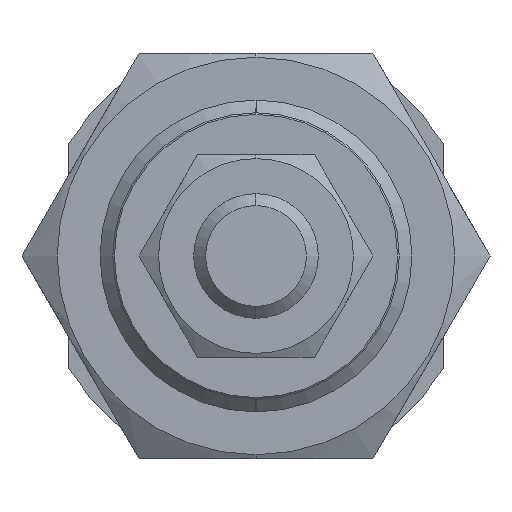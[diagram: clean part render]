
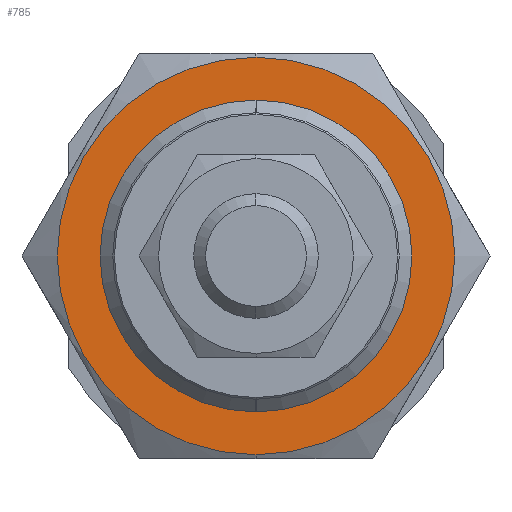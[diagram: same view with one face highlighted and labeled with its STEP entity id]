
A CAD part, left-side view. The second image highlights one B-rep face of the part: STEP entity #785.
In plain terms, the highlighted planar face has unit normal (-1, 0, 0).
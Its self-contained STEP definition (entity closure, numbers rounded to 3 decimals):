
#48 = VERTEX_POINT ( 'NONE', #2365 ) ;
#165 = AXIS2_PLACEMENT_3D ( 'NONE', #2548, #1701, #773 ) ;
#259 = CARTESIAN_POINT ( 'NONE',  ( -11., 0., -10. ) ) ;
#315 = DIRECTION ( 'NONE',  ( 1., 0., 0. ) ) ;
#390 = CARTESIAN_POINT ( 'NONE',  ( -11., 0., 0. ) ) ;
#479 = AXIS2_PLACEMENT_3D ( 'NONE', #390, #2481, #3783 ) ;
#732 = EDGE_CURVE ( 'NONE', #4108, #3918, #1629, .T. ) ;
#769 = CIRCLE ( 'NONE', #3244, 12.75 ) ;
#773 = DIRECTION ( 'NONE',  ( 0., 0., -1. ) ) ;
#785 = ADVANCED_FACE ( 'NONE', ( #3367, #1271 ), #2979, .F. ) ;
#1015 = EDGE_CURVE ( 'NONE', #1281, #48, #769, .T. ) ;
#1146 = DIRECTION ( 'NONE',  ( 1., 0., 0. ) ) ;
#1271 = FACE_BOUND ( 'NONE', #3330, .T. ) ;
#1281 = VERTEX_POINT ( 'NONE', #1538 ) ;
#1496 = ORIENTED_EDGE ( 'NONE', *, *, #732, .T. ) ;
#1538 = CARTESIAN_POINT ( 'NONE',  ( -11., 0., -12.75 ) ) ;
#1629 = CIRCLE ( 'NONE', #479, 10. ) ;
#1701 = DIRECTION ( 'NONE',  ( 1., 0., 0. ) ) ;
#2365 = CARTESIAN_POINT ( 'NONE',  ( -11., 0., 12.75 ) ) ;
#2481 = DIRECTION ( 'NONE',  ( 1., 0., 0. ) ) ;
#2533 = CIRCLE ( 'NONE', #4740, 10. ) ;
#2548 = CARTESIAN_POINT ( 'NONE',  ( -11., 0., 0. ) ) ;
#2941 = AXIS2_PLACEMENT_3D ( 'NONE', #4220, #3066, #5072 ) ;
#2945 = CARTESIAN_POINT ( 'NONE',  ( -11., 0., 10. ) ) ;
#2979 = PLANE ( 'NONE',  #2941 ) ;
#3066 = DIRECTION ( 'NONE',  ( 1., 0., 0. ) ) ;
#3244 = AXIS2_PLACEMENT_3D ( 'NONE', #4163, #315, #3471 ) ;
#3330 = EDGE_LOOP ( 'NONE', ( #3945, #1496 ) ) ;
#3367 = FACE_OUTER_BOUND ( 'NONE', #5245, .T. ) ;
#3471 = DIRECTION ( 'NONE',  ( 0., 0., -1. ) ) ;
#3678 = CARTESIAN_POINT ( 'NONE',  ( -11., 0., 0. ) ) ;
#3690 = ORIENTED_EDGE ( 'NONE', *, *, #1015, .F. ) ;
#3747 = EDGE_CURVE ( 'NONE', #3918, #4108, #2533, .T. ) ;
#3783 = DIRECTION ( 'NONE',  ( 0., 0., -1. ) ) ;
#3918 = VERTEX_POINT ( 'NONE', #2945 ) ;
#3945 = ORIENTED_EDGE ( 'NONE', *, *, #3747, .T. ) ;
#4108 = VERTEX_POINT ( 'NONE', #259 ) ;
#4163 = CARTESIAN_POINT ( 'NONE',  ( -11., 0., 0. ) ) ;
#4214 = EDGE_CURVE ( 'NONE', #48, #1281, #4732, .T. ) ;
#4220 = CARTESIAN_POINT ( 'NONE',  ( -11., 0., 0. ) ) ;
#4322 = ORIENTED_EDGE ( 'NONE', *, *, #4214, .F. ) ;
#4732 = CIRCLE ( 'NONE', #165, 12.75 ) ;
#4740 = AXIS2_PLACEMENT_3D ( 'NONE', #3678, #1146, #4939 ) ;
#4939 = DIRECTION ( 'NONE',  ( 0., 0., -1. ) ) ;
#5072 = DIRECTION ( 'NONE',  ( 0., 1., 0. ) ) ;
#5245 = EDGE_LOOP ( 'NONE', ( #3690, #4322 ) ) ;
